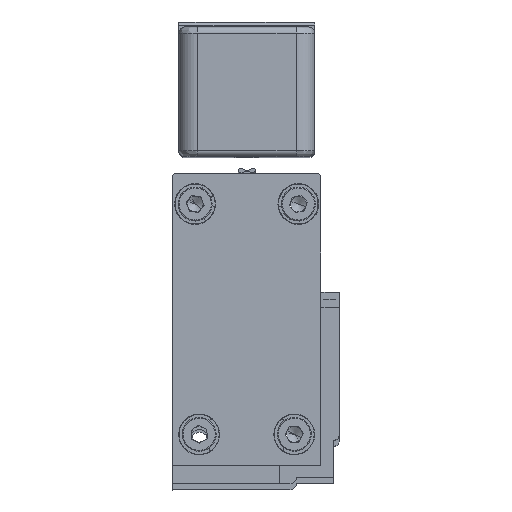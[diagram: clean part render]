
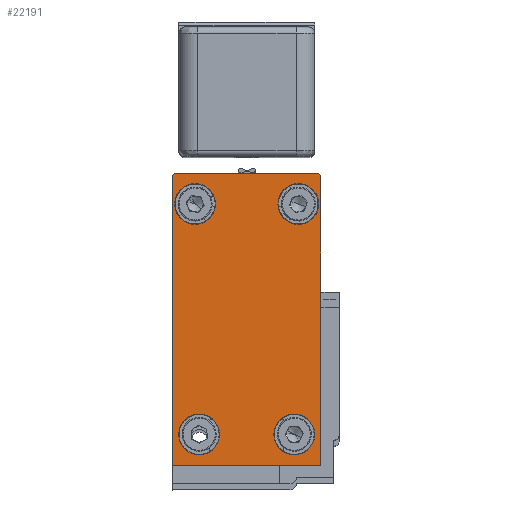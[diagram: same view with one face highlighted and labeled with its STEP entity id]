
A CAD part, top view. The second image highlights one B-rep face of the part: STEP entity #22191.
In plain terms, the highlighted planar face has unit normal (0, 0, 1).
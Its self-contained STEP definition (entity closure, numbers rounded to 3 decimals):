
#88 = VERTEX_POINT ( 'NONE', #14502 ) ;
#104 = AXIS2_PLACEMENT_3D ( 'NONE', #35402, #19224, #2583 ) ;
#426 = CARTESIAN_POINT ( 'NONE',  ( 5.984, -20.888, 3185. ) ) ;
#641 = ORIENTED_EDGE ( 'NONE', *, *, #3154, .T. ) ;
#745 = ORIENTED_EDGE ( 'NONE', *, *, #22970, .T. ) ;
#1058 = CARTESIAN_POINT ( 'NONE',  ( 5.485, 25.871, 3185. ) ) ;
#1134 = VERTEX_POINT ( 'NONE', #4335 ) ;
#2429 = VERTEX_POINT ( 'NONE', #18564 ) ;
#2583 = DIRECTION ( 'NONE',  ( 0., 1., 0. ) ) ;
#3154 = EDGE_CURVE ( 'NONE', #15367, #3316, #10621, .T. ) ;
#3165 = DIRECTION ( 'NONE',  ( 0., 1., 0. ) ) ;
#3316 = VERTEX_POINT ( 'NONE', #19148 ) ;
#3440 = CARTESIAN_POINT ( 'NONE',  ( -18.014, 25.871, 3185. ) ) ;
#3745 = DIRECTION ( 'NONE',  ( 0., 0., -1. ) ) ;
#3777 = CARTESIAN_POINT ( 'NONE',  ( -17.667, 21.401, 3185. ) ) ;
#3789 = CARTESIAN_POINT ( 'NONE',  ( -14.365, 21.401, 3185. ) ) ;
#3817 = CARTESIAN_POINT ( 'NONE',  ( 2.335, 21.401, 3185. ) ) ;
#3832 = DIRECTION ( 'NONE',  ( 0., 1., 0. ) ) ;
#3872 = VERTEX_POINT ( 'NONE', #12418 ) ;
#3885 = CARTESIAN_POINT ( 'NONE',  ( 4.978, -15.887, 3185. ) ) ;
#3962 = LINE ( 'NONE', #34572, #32283 ) ;
#3965 = ORIENTED_EDGE ( 'NONE', *, *, #8115, .T. ) ;
#4154 = VERTEX_POINT ( 'NONE', #24831 ) ;
#4159 = LINE ( 'NONE', #3440, #10730 ) ;
#4241 = CIRCLE ( 'NONE', #31207, 3.302 ) ;
#4335 = CARTESIAN_POINT ( 'NONE',  ( -17.514, 26.371, 3185. ) ) ;
#4784 = FACE_BOUND ( 'NONE', #9720, .T. ) ;
#4973 = CARTESIAN_POINT ( 'NONE',  ( -18.014, -20.888, 3185. ) ) ;
#4989 = EDGE_CURVE ( 'NONE', #31045, #2429, #8345, .T. ) ;
#5437 = CARTESIAN_POINT ( 'NONE',  ( -10.412, -15.887, 3185. ) ) ;
#5458 = VERTEX_POINT ( 'NONE', #6142 ) ;
#5609 = CARTESIAN_POINT ( 'NONE',  ( 2.335, 21.401, 3185. ) ) ;
#6111 = CARTESIAN_POINT ( 'NONE',  ( 5.984, 7.11, 3185. ) ) ;
#6120 = CIRCLE ( 'NONE', #20373, 3.302 ) ;
#6142 = CARTESIAN_POINT ( 'NONE',  ( -11.063, 21.401, 3185. ) ) ;
#6224 = EDGE_LOOP ( 'NONE', ( #30703, #641 ) ) ;
#6610 = DIRECTION ( 'NONE',  ( -1., 0., 0. ) ) ;
#6634 = DIRECTION ( 'NONE',  ( -1., 0., 0. ) ) ;
#6857 = EDGE_CURVE ( 'NONE', #3872, #1134, #27174, .T. ) ;
#7265 = VERTEX_POINT ( 'NONE', #3777 ) ;
#7470 = AXIS2_PLACEMENT_3D ( 'NONE', #20394, #3745, #23102 ) ;
#7588 = DIRECTION ( 'NONE',  ( 0., 0., -1. ) ) ;
#7736 = AXIS2_PLACEMENT_3D ( 'NONE', #25766, #9352, #28473 ) ;
#7986 = VERTEX_POINT ( 'NONE', #5437 ) ;
#8062 = CIRCLE ( 'NONE', #7470, 3.302 ) ;
#8115 = EDGE_CURVE ( 'NONE', #33976, #4154, #6120, .T. ) ;
#8345 = LINE ( 'NONE', #31997, #28489 ) ;
#8395 = DIRECTION ( 'NONE',  ( -1., 0., 0. ) ) ;
#9352 = DIRECTION ( 'NONE',  ( 0., 0., 1. ) ) ;
#9720 = EDGE_LOOP ( 'NONE', ( #24969, #3965 ) ) ;
#9913 = AXIS2_PLACEMENT_3D ( 'NONE', #3789, #23145, #6610 ) ;
#10340 = ORIENTED_EDGE ( 'NONE', *, *, #15728, .T. ) ;
#10584 = EDGE_LOOP ( 'NONE', ( #19749, #28224, #29625, #15875, #17769, #30368, #10340 ) ) ;
#10618 = CARTESIAN_POINT ( 'NONE',  ( -13.714, -15.887, 3185. ) ) ;
#10621 = CIRCLE ( 'NONE', #17695, 3.302 ) ;
#10730 = VECTOR ( 'NONE', #28226, 1000. ) ;
#12167 = CARTESIAN_POINT ( 'NONE',  ( 1.676, -15.887, 3185. ) ) ;
#12246 = FACE_BOUND ( 'NONE', #6224, .T. ) ;
#12418 = CARTESIAN_POINT ( 'NONE',  ( -18.014, 25.871, 3185. ) ) ;
#13420 = DIRECTION ( 'NONE',  ( -1., 0., 0. ) ) ;
#13441 = EDGE_CURVE ( 'NONE', #2429, #21843, #34294, .T. ) ;
#13918 = VERTEX_POINT ( 'NONE', #16315 ) ;
#14502 = CARTESIAN_POINT ( 'NONE',  ( -18.014, -20.888, 3185. ) ) ;
#14958 = DIRECTION ( 'NONE',  ( -1., 0., 0. ) ) ;
#15366 = EDGE_LOOP ( 'NONE', ( #20420, #23697 ) ) ;
#15367 = VERTEX_POINT ( 'NONE', #3885 ) ;
#15728 = EDGE_CURVE ( 'NONE', #88, #31045, #25394, .T. ) ;
#15808 = DIRECTION ( 'NONE',  ( 0., 0., -1. ) ) ;
#15875 = ORIENTED_EDGE ( 'NONE', *, *, #33536, .T. ) ;
#15922 = CARTESIAN_POINT ( 'NONE',  ( -17.017, -15.887, 3185. ) ) ;
#16018 = AXIS2_PLACEMENT_3D ( 'NONE', #24086, #7588, #26795 ) ;
#16315 = CARTESIAN_POINT ( 'NONE',  ( 5.485, 26.371, 3185. ) ) ;
#17695 = AXIS2_PLACEMENT_3D ( 'NONE', #32038, #15808, #34761 ) ;
#17769 = ORIENTED_EDGE ( 'NONE', *, *, #6857, .F. ) ;
#18184 = VECTOR ( 'NONE', #27085, 1000. ) ;
#18526 = DIRECTION ( 'NONE',  ( 0., 1., 0. ) ) ;
#18564 = CARTESIAN_POINT ( 'NONE',  ( 5.984, 7.11, 3185. ) ) ;
#18706 = FACE_OUTER_BOUND ( 'NONE', #10584, .T. ) ;
#19148 = CARTESIAN_POINT ( 'NONE',  ( -1.626, -15.887, 3185. ) ) ;
#19224 = DIRECTION ( 'NONE',  ( 0., 0., -1. ) ) ;
#19696 = CIRCLE ( 'NONE', #16018, 3.302 ) ;
#19749 = ORIENTED_EDGE ( 'NONE', *, *, #4989, .T. ) ;
#19947 = EDGE_CURVE ( 'NONE', #21843, #13918, #21049, .T. ) ;
#20373 = AXIS2_PLACEMENT_3D ( 'NONE', #3817, #23170, #6634 ) ;
#20394 = CARTESIAN_POINT ( 'NONE',  ( -13.714, -15.887, 3185. ) ) ;
#20420 = ORIENTED_EDGE ( 'NONE', *, *, #23261, .T. ) ;
#20478 = DIRECTION ( 'NONE',  ( 0., 0., 1. ) ) ;
#21049 = CIRCLE ( 'NONE', #31954, 0.5 ) ;
#21620 = CIRCLE ( 'NONE', #9913, 3.302 ) ;
#21770 = VERTEX_POINT ( 'NONE', #15922 ) ;
#21843 = VERTEX_POINT ( 'NONE', #27061 ) ;
#22191 = ADVANCED_FACE ( 'NONE', ( #33098, #4784, #12246, #25913, #18706 ), #30871, .T. ) ;
#22596 = EDGE_LOOP ( 'NONE', ( #33751, #745 ) ) ;
#22970 = EDGE_CURVE ( 'NONE', #5458, #7265, #21620, .T. ) ;
#23102 = DIRECTION ( 'NONE',  ( -1., 0., 0. ) ) ;
#23145 = DIRECTION ( 'NONE',  ( 0., 0., -1. ) ) ;
#23170 = DIRECTION ( 'NONE',  ( 0., 0., -1. ) ) ;
#23261 = EDGE_CURVE ( 'NONE', #21770, #7986, #4241, .T. ) ;
#23697 = ORIENTED_EDGE ( 'NONE', *, *, #32086, .T. ) ;
#23822 = DIRECTION ( 'NONE',  ( -1., 0., 0. ) ) ;
#24086 = CARTESIAN_POINT ( 'NONE',  ( -14.365, 21.401, 3185. ) ) ;
#24831 = CARTESIAN_POINT ( 'NONE',  ( -0.967, 21.401, 3185. ) ) ;
#24858 = DIRECTION ( 'NONE',  ( 0., 0., -1. ) ) ;
#24873 = CIRCLE ( 'NONE', #34189, 3.302 ) ;
#24969 = ORIENTED_EDGE ( 'NONE', *, *, #27677, .T. ) ;
#25340 = EDGE_CURVE ( 'NONE', #7265, #5458, #19696, .T. ) ;
#25394 = LINE ( 'NONE', #4973, #18184 ) ;
#25766 = CARTESIAN_POINT ( 'NONE',  ( -18.014, -20.888, 3185. ) ) ;
#25913 = FACE_BOUND ( 'NONE', #15366, .T. ) ;
#26387 = CARTESIAN_POINT ( 'NONE',  ( 5.637, 21.401, 3185. ) ) ;
#26795 = DIRECTION ( 'NONE',  ( -1., 0., 0. ) ) ;
#26884 = AXIS2_PLACEMENT_3D ( 'NONE', #12167, #31236, #14958 ) ;
#27061 = CARTESIAN_POINT ( 'NONE',  ( 5.984, 25.871, 3185. ) ) ;
#27085 = DIRECTION ( 'NONE',  ( 1., 0., 0. ) ) ;
#27174 = CIRCLE ( 'NONE', #104, 0.5 ) ;
#27677 = EDGE_CURVE ( 'NONE', #4154, #33976, #24873, .T. ) ;
#28224 = ORIENTED_EDGE ( 'NONE', *, *, #13441, .T. ) ;
#28226 = DIRECTION ( 'NONE',  ( 0., -1., 0. ) ) ;
#28473 = DIRECTION ( 'NONE',  ( -1., 0., 0. ) ) ;
#28489 = VECTOR ( 'NONE', #18526, 1000. ) ;
#29625 = ORIENTED_EDGE ( 'NONE', *, *, #19947, .T. ) ;
#29706 = DIRECTION ( 'NONE',  ( 0., 0., -1. ) ) ;
#30368 = ORIENTED_EDGE ( 'NONE', *, *, #35443, .T. ) ;
#30443 = CIRCLE ( 'NONE', #26884, 3.302 ) ;
#30703 = ORIENTED_EDGE ( 'NONE', *, *, #34603, .T. ) ;
#30871 = PLANE ( 'NONE',  #7736 ) ;
#31045 = VERTEX_POINT ( 'NONE', #426 ) ;
#31207 = AXIS2_PLACEMENT_3D ( 'NONE', #10618, #29706, #13420 ) ;
#31236 = DIRECTION ( 'NONE',  ( 0., 0., -1. ) ) ;
#31954 = AXIS2_PLACEMENT_3D ( 'NONE', #1058, #20478, #3832 ) ;
#31997 = CARTESIAN_POINT ( 'NONE',  ( 5.984, -20.888, 3185. ) ) ;
#32038 = CARTESIAN_POINT ( 'NONE',  ( 1.676, -15.887, 3185. ) ) ;
#32086 = EDGE_CURVE ( 'NONE', #7986, #21770, #8062, .T. ) ;
#32283 = VECTOR ( 'NONE', #23822, 1000. ) ;
#33098 = FACE_BOUND ( 'NONE', #22596, .T. ) ;
#33464 = VECTOR ( 'NONE', #3165, 1000. ) ;
#33536 = EDGE_CURVE ( 'NONE', #13918, #1134, #3962, .T. ) ;
#33751 = ORIENTED_EDGE ( 'NONE', *, *, #25340, .T. ) ;
#33976 = VERTEX_POINT ( 'NONE', #26387 ) ;
#34189 = AXIS2_PLACEMENT_3D ( 'NONE', #5609, #24858, #8395 ) ;
#34294 = LINE ( 'NONE', #6111, #33464 ) ;
#34572 = CARTESIAN_POINT ( 'NONE',  ( 5.485, 26.371, 3185. ) ) ;
#34603 = EDGE_CURVE ( 'NONE', #3316, #15367, #30443, .T. ) ;
#34761 = DIRECTION ( 'NONE',  ( -1., 0., 0. ) ) ;
#35402 = CARTESIAN_POINT ( 'NONE',  ( -17.514, 25.871, 3185. ) ) ;
#35443 = EDGE_CURVE ( 'NONE', #3872, #88, #4159, .T. ) ;
